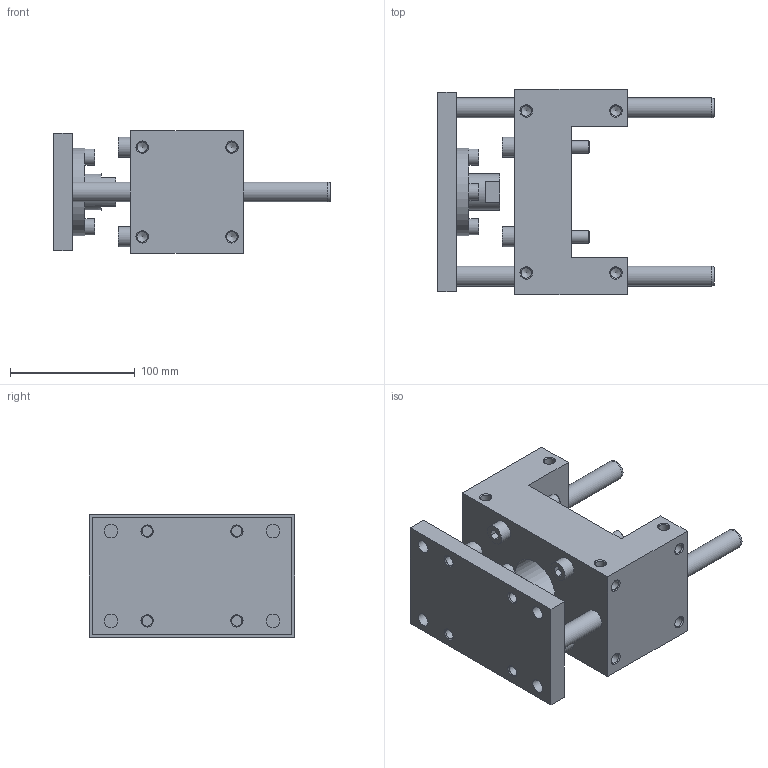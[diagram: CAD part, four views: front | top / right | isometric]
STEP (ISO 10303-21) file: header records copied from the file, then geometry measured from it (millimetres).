
FILE_DESCRIPTION( ( 'STEP AP214' ), '1' );
FILE_NAME( 'U:/Etudes/Top Solid/BIBLIO 3D AVM/TOP/PNEUMATIQUE/GUIDAGES/Type 34 (en U)/_Légère/3481130.step', '2005-05-27T12:34:34', ( ' ' ), ( ' ' ), 'XStep 1.0', ' ', ' ' );
FILE_SCHEMA( ( 'automotive_design' ) );
Length unit declared in the file: metre
Products named in the file (2): 1; 2
Bounding box: 222 x 165 x 98 mm (x, y, z)
Volume: 1222608.5 mm3; surface area: 188224.7 mm2
Topology: 2 solids, 7 shells, 245 faces, 598 edges, 389 vertices
Faces by surface type: plane 108, cylinder 92, cone 45
Full cylindrical faces by diameter (mm): 4.918 x4, 8 x8, 8.376 x32, 8.5 x4, 10 x8, 11 x8, 13 x4, 16 x8, 18.376 x2, 29 x1, 32 x1, 42 x1, 45 x2, 70 x1
Entity records: 8253 total; most frequent: CARTESIAN_POINT 1235, DIRECTION 1080, ORIENTED_EDGE 790, AXIS2_PLACEMENT_3D 446, EDGE_LOOP 436, EDGE_CURVE 395, FACE_OUTER_BOUND 329, VERTEX_POINT 329
